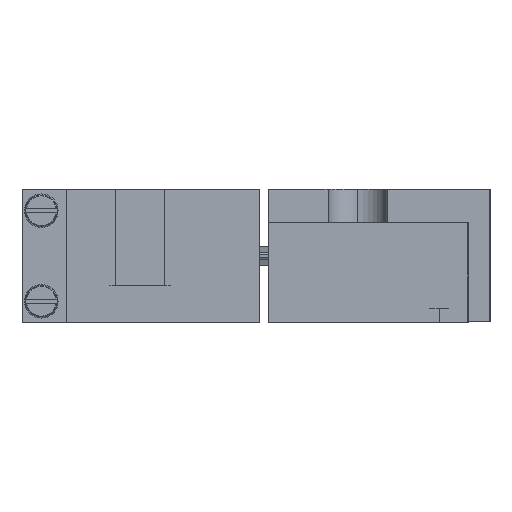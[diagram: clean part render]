
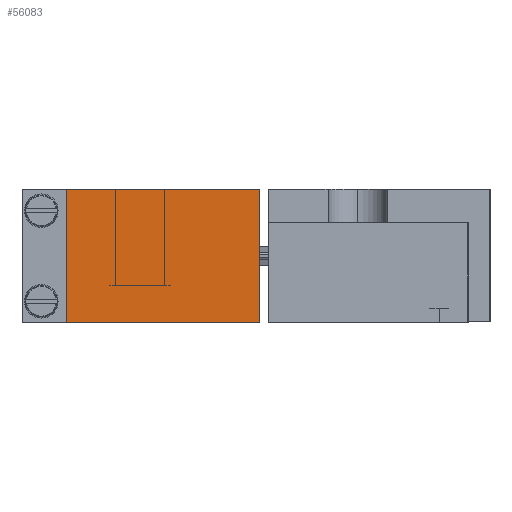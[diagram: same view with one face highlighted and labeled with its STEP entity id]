
A CAD part, left-side view. The second image highlights one B-rep face of the part: STEP entity #56083.
In plain terms, the highlighted planar face has unit normal (-1, 0, 0).
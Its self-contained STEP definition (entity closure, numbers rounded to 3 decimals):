
#5014 = DIRECTION ( 'NONE',  ( 0., 0., -1. ) ) ;
#6848 = ORIENTED_EDGE ( 'NONE', *, *, #82708, .F. ) ;
#10079 = CARTESIAN_POINT ( 'NONE',  ( -98.734, 49.221, 62.669 ) ) ;
#11552 = VERTEX_POINT ( 'NONE', #35720 ) ;
#11897 = CARTESIAN_POINT ( 'NONE',  ( -98.734, 75.221, 62.669 ) ) ;
#12377 = ORIENTED_EDGE ( 'NONE', *, *, #76183, .T. ) ;
#15705 = VERTEX_POINT ( 'NONE', #41443 ) ;
#16400 = LINE ( 'NONE', #11897, #70772 ) ;
#16924 = DIRECTION ( 'NONE',  ( 0., 0., -1. ) ) ;
#17133 = EDGE_CURVE ( 'NONE', #31057, #86691, #48568, .T. ) ;
#28481 = CARTESIAN_POINT ( 'NONE',  ( -98.734, 49.221, 62.669 ) ) ;
#30144 = FACE_OUTER_BOUND ( 'NONE', #30344, .T. ) ;
#30344 = EDGE_LOOP ( 'NONE', ( #50875, #52847, #6848, #12377 ) ) ;
#31057 = VERTEX_POINT ( 'NONE', #51316 ) ;
#35720 = CARTESIAN_POINT ( 'NONE',  ( -98.734, 75.221, 44.669 ) ) ;
#39789 = VECTOR ( 'NONE', #51520, 1000. ) ;
#41443 = CARTESIAN_POINT ( 'NONE',  ( -98.734, 75.221, 62.669 ) ) ;
#41912 = LINE ( 'NONE', #58416, #39789 ) ;
#42480 = DIRECTION ( 'NONE',  ( 0., 0., -1. ) ) ;
#42571 = DIRECTION ( 'NONE',  ( 0., -1., 0. ) ) ;
#46357 = VECTOR ( 'NONE', #42571, 1000. ) ;
#48568 = LINE ( 'NONE', #28481, #66720 ) ;
#50875 = ORIENTED_EDGE ( 'NONE', *, *, #68307, .T. ) ;
#51142 = AXIS2_PLACEMENT_3D ( 'NONE', #10079, #57797, #16924 ) ;
#51316 = CARTESIAN_POINT ( 'NONE',  ( -98.734, 49.221, 62.669 ) ) ;
#51520 = DIRECTION ( 'NONE',  ( 0., -1., 0. ) ) ;
#52847 = ORIENTED_EDGE ( 'NONE', *, *, #17133, .F. ) ;
#56083 = ADVANCED_FACE ( 'NONE', ( #30144 ), #71143, .F. ) ;
#57797 = DIRECTION ( 'NONE',  ( 1., 0., 0. ) ) ;
#58416 = CARTESIAN_POINT ( 'NONE',  ( -98.734, 49.221, 44.669 ) ) ;
#64489 = LINE ( 'NONE', #69645, #46357 ) ;
#66720 = VECTOR ( 'NONE', #42480, 1000. ) ;
#68307 = EDGE_CURVE ( 'NONE', #11552, #86691, #41912, .T. ) ;
#69645 = CARTESIAN_POINT ( 'NONE',  ( -98.734, 49.221, 62.669 ) ) ;
#70772 = VECTOR ( 'NONE', #5014, 1000. ) ;
#71143 = PLANE ( 'NONE',  #51142 ) ;
#74054 = CARTESIAN_POINT ( 'NONE',  ( -98.734, 49.221, 44.669 ) ) ;
#76183 = EDGE_CURVE ( 'NONE', #15705, #11552, #16400, .T. ) ;
#82708 = EDGE_CURVE ( 'NONE', #15705, #31057, #64489, .T. ) ;
#86691 = VERTEX_POINT ( 'NONE', #74054 ) ;
